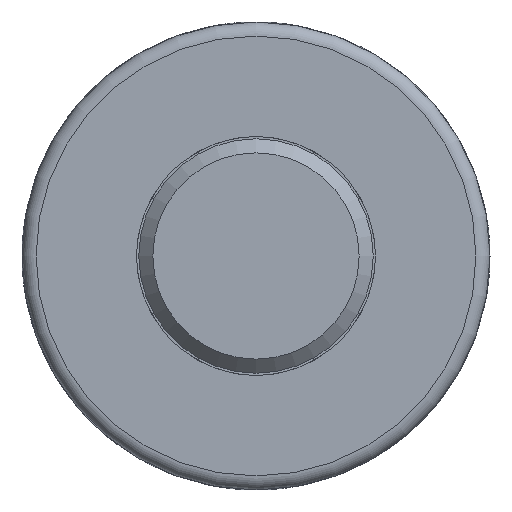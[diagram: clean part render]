
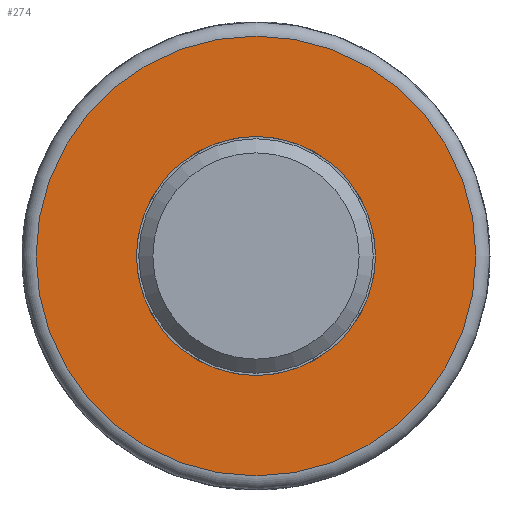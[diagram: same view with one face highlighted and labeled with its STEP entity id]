
A CAD part, front view. The second image highlights one B-rep face of the part: STEP entity #274.
In plain terms, the highlighted planar face has unit normal (0, -1, 0).
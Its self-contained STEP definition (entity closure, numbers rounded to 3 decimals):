
#274=ADVANCED_FACE('',(#355,#356),#308,.T.);
#308=PLANE('',#1111);
#323=CIRCLE('',#1096,2.55);
#332=CIRCLE('',#1110,4.69);
#355=FACE_BOUND('',#411,.T.);
#356=FACE_BOUND('',#412,.T.);
#411=EDGE_LOOP('',(#639));
#412=EDGE_LOOP('',(#640));
#639=ORIENTED_EDGE('',*,*,#922,.T.);
#640=ORIENTED_EDGE('',*,*,#913,.T.);
#789=VERTEX_POINT('',#2437);
#790=VERTEX_POINT('',#2452);
#913=EDGE_CURVE('',#789,#789,#323,.T.);
#922=EDGE_CURVE('',#790,#790,#332,.T.);
#1096=AXIS2_PLACEMENT_3D('',#2436,#1295,#1296);
#1110=AXIS2_PLACEMENT_3D('',#2451,#1323,#1324);
#1111=AXIS2_PLACEMENT_3D('',#2453,#1325,#1326);
#1295=DIRECTION('',(0.,1.,0.));
#1296=DIRECTION('',(1.,0.,0.));
#1323=DIRECTION('',(0.,-1.,0.));
#1324=DIRECTION('',(1.,0.,0.));
#1325=DIRECTION('',(0.,-1.,0.));
#1326=DIRECTION('',(-1.,0.,0.));
#2436=CARTESIAN_POINT('',(2.39,-21.9,0.));
#2437=CARTESIAN_POINT('',(4.94,-21.9,0.));
#2451=CARTESIAN_POINT('',(2.39,-21.9,0.));
#2452=CARTESIAN_POINT('',(7.08,-21.9,0.));
#2453=CARTESIAN_POINT('',(7.38,-21.9,0.));
